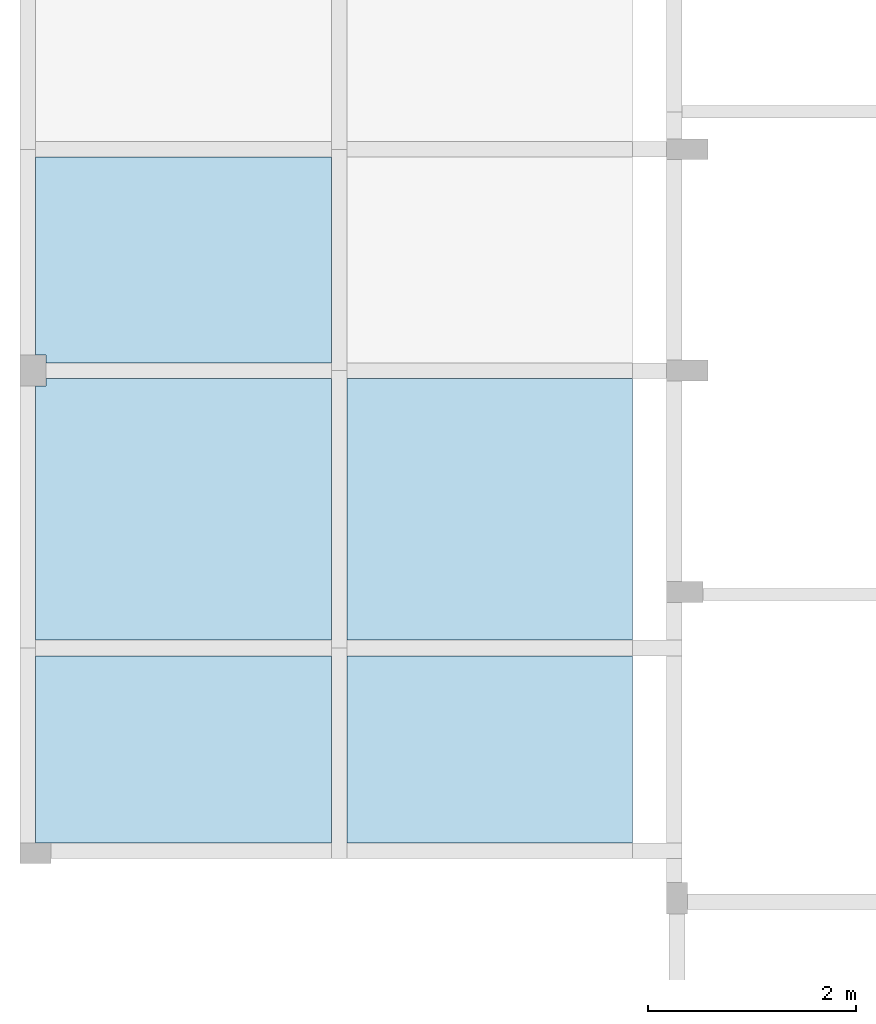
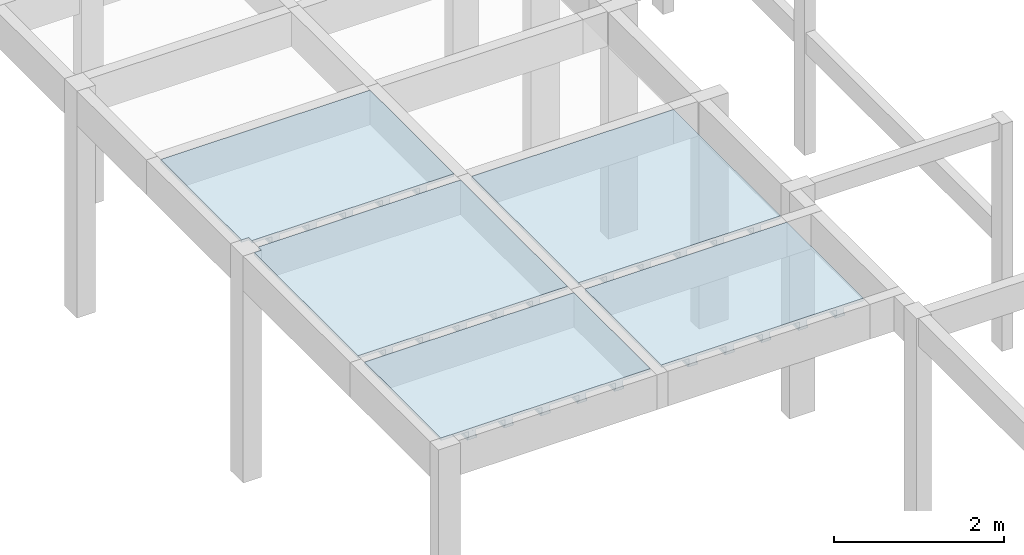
# One storey, part 3 of 6: 5 slabs.
"""IFC4 building model written with IfcOpenShell, lengths in centimetres."""

from ifc_helpers import new_model, si_unit, derived_unit, frame, origin_with_axes, place, context, project, spatial, polyline, outline, extrude, faceted_brep, material, element, save


model = new_model("IFC4")

# Units and contexts
model_context = context("Model", 3, precision=1e-05, world=origin_with_axes(), identifier="Body")
ifc_project = project(units=[si_unit("LENGTHUNIT", "METRE", prefix="CENTI"), si_unit("VOLUMEUNIT", "CUBIC_METRE"), si_unit("AREAUNIT", "SQUARE_METRE"), si_unit("POWERUNIT", "WATT"), si_unit("LUMINOUSFLUXUNIT", "LUMEN"), si_unit("ELECTRICCURRENTUNIT", "AMPERE"), si_unit("PRESSUREUNIT", "PASCAL", prefix="KILO"), si_unit("MASSUNIT", "GRAM", prefix="KILO"), si_unit("PLANEANGLEUNIT", "RADIAN"), derived_unit("VOLUMETRICFLOWRATEUNIT", [(si_unit("LENGTHUNIT", "METRE"), 3), (si_unit("TIMEUNIT", "SECOND"), -1)])], contexts=[model_context])

# Site, building, storey
site_placement = place(None, origin_with_axes())
site = spatial("IfcSite", under=ifc_project, at=site_placement)
building_placement = place(site_placement, frame((0.0, 0.0, -295.0)))
building = spatial("IfcBuilding", under=site, at=building_placement)
placement_1 = place(building_placement, origin_with_axes())
placement_2 = place(placement_1, frame((0.0, 0.0, 101.0), z_axis=(0.0, 0.0, 1.0), x_axis=(1.0, 0.0, 0.0)))
placement_3 = place(placement_2, frame((0.0, 0.0, 204.0), z_axis=(0.0, 0.0, 1.0), x_axis=(1.0, 0.0, 0.0)))
placement_4 = place(placement_3, frame((0.0, 0.0, 292.0), z_axis=(0.0, 0.0, 1.0), x_axis=(1.0, 0.0, 0.0)))
placement_5 = place(placement_4, frame((0.0, 0.0, 302.0), z_axis=(0.0, 0.0, 1.0), x_axis=(1.0, 0.0, 0.0)))
storey_placement = place(placement_5, frame((0.0, 0.0, 326.0), z_axis=(0.0, 0.0, 1.0), x_axis=(1.0, 0.0, 0.0)))
storey = spatial("IfcBuildingStorey", under=building, at=storey_placement, Name="COB CX DAGUA", CompositionType="ELEMENT", Elevation=930.0)

# Slabs
ifc_material = material(Name="Concreto")
slab_1_placement = place(storey_placement, frame((709.0655, -6219.16, 0.0), z_axis=(0.0, 0.0, 1.0), x_axis=(1.0, 0.0, 0.0)))
element("IfcSlab", 1, at=slab_1_placement, inside=storey, material=ifc_material, Name="L311", PredefinedType="FLOOR", context=model_context, shape_type="SolidModel", body=[
    extrude(outline(polyline([(142.335, 98.96), (-142.334, 98.96), (-142.334, -91.459), (-132.334, -91.459), (-132.334, -98.96), (142.334, -98.96), (142.335, 98.96), (142.335, 98.96)])), frame((-0.0005, 0.0, -4.0), z_axis=(0.0, 0.0, 1.0), x_axis=(1.0, 0.0, 0.0)), (0.0, 0.0, 1.0), 4.0),
    faceted_brep([(-5.0005, -98.96, -16.0), (-5.0005, 98.96, -16.0), (4.9995, 98.96, -16.0), (4.9995, -98.96, -16.0), (4.9995, -98.96, -4.0), (4.9995, 98.96, -4.0), (-5.0005, 98.96, -4.0), (-5.0005, -98.96, -4.0)], [[[0, 1, 2, 3]], [[4, 5, 6, 7]], [[4, 3, 5]], [[3, 2, 5]], [[5, 2, 6]], [[2, 1, 6]], [[6, 1, 7]], [[1, 0, 7]], [[7, 0, 4]], [[0, 3, 4]]]),
    faceted_brep([(-6.5005, -98.96, -16.0), (-6.5005, 98.96, -16.0), (-5.0005, 98.96, -16.0), (-5.0005, -98.96, -16.0), (-5.0005, -98.96, -13.0), (-5.0005, 98.96, -13.0), (-6.5005, 98.96, -13.0), (-6.5005, -98.96, -13.0)], [[[0, 1, 2, 3]], [[4, 5, 6, 7]], [[4, 3, 5]], [[3, 2, 5]], [[5, 2, 6]], [[2, 1, 6]], [[6, 1, 7]], [[1, 0, 7]], [[7, 0, 4]], [[0, 3, 4]]]),
    faceted_brep([(4.9995, -98.96, -16.0), (4.9995, 98.96, -16.0), (6.4995, 98.96, -16.0), (6.4995, -98.96, -16.0), (6.4995, -98.96, -13.0), (6.4995, 98.96, -13.0), (4.9995, 98.96, -13.0), (4.9995, -98.96, -13.0)], [[[0, 1, 2, 3]], [[4, 5, 6, 7]], [[4, 3, 5]], [[3, 2, 5]], [[5, 2, 6]], [[2, 1, 6]], [[6, 1, 7]], [[1, 0, 7]], [[7, 0, 4]], [[0, 3, 4]]]),
    faceted_brep([(-55.0005, -98.96, -16.0), (-55.0005, 98.96, -16.0), (-45.0005, 98.96, -16.0), (-45.0005, -98.96, -16.0), (-45.0005, -98.96, -4.0), (-45.0005, 98.96, -4.0), (-55.0005, 98.96, -4.0), (-55.0005, -98.96, -4.0)], [[[0, 1, 2, 3]], [[4, 5, 6, 7]], [[4, 3, 5]], [[3, 2, 5]], [[5, 2, 6]], [[2, 1, 6]], [[6, 1, 7]], [[1, 0, 7]], [[7, 0, 4]], [[0, 3, 4]]]),
    faceted_brep([(-56.5005, -98.96, -16.0), (-56.5005, 98.96, -16.0), (-55.0005, 98.96, -16.0), (-55.0005, -98.96, -16.0), (-55.0005, -98.96, -13.0), (-55.0005, 98.96, -13.0), (-56.5005, 98.96, -13.0), (-56.5005, -98.96, -13.0)], [[[0, 1, 2, 3]], [[4, 5, 6, 7]], [[4, 3, 5]], [[3, 2, 5]], [[5, 2, 6]], [[2, 1, 6]], [[6, 1, 7]], [[1, 0, 7]], [[7, 0, 4]], [[0, 3, 4]]]),
    faceted_brep([(-45.0005, -98.96, -16.0), (-45.0005, 98.96, -16.0), (-43.5005, 98.96, -16.0), (-43.5005, -98.96, -16.0), (-43.5005, -98.96, -13.0), (-43.5005, 98.96, -13.0), (-45.0005, 98.96, -13.0), (-45.0005, -98.96, -13.0)], [[[0, 1, 2, 3]], [[4, 5, 6, 7]], [[4, 3, 5]], [[3, 2, 5]], [[5, 2, 6]], [[2, 1, 6]], [[6, 1, 7]], [[1, 0, 7]], [[7, 0, 4]], [[0, 3, 4]]]),
    faceted_brep([(-105.0005, -98.96, -16.0), (-105.0005, 98.96, -16.0), (-95.0005, 98.96, -16.0), (-95.0005, -98.96, -16.0), (-95.0005, -98.96, -4.0), (-95.0005, 98.96, -4.0), (-105.0005, 98.96, -4.0), (-105.0005, -98.96, -4.0)], [[[0, 1, 2, 3]], [[4, 5, 6, 7]], [[4, 3, 5]], [[3, 2, 5]], [[5, 2, 6]], [[2, 1, 6]], [[6, 1, 7]], [[1, 0, 7]], [[7, 0, 4]], [[0, 3, 4]]]),
    faceted_brep([(-106.5005, -98.96, -16.0), (-106.5005, 98.96, -16.0), (-105.0005, 98.96, -16.0), (-105.0005, -98.96, -16.0), (-105.0005, -98.96, -13.0), (-105.0005, 98.96, -13.0), (-106.5005, 98.96, -13.0), (-106.5005, -98.96, -13.0)], [[[0, 1, 2, 3]], [[4, 5, 6, 7]], [[4, 3, 5]], [[3, 2, 5]], [[5, 2, 6]], [[2, 1, 6]], [[6, 1, 7]], [[1, 0, 7]], [[7, 0, 4]], [[0, 3, 4]]]),
    faceted_brep([(-95.0005, -98.96, -16.0), (-95.0005, 98.96, -16.0), (-93.5005, 98.96, -16.0), (-93.5005, -98.96, -16.0), (-93.5005, -98.96, -13.0), (-93.5005, 98.96, -13.0), (-95.0005, 98.96, -13.0), (-95.0005, -98.96, -13.0)], [[[0, 1, 2, 3]], [[4, 5, 6, 7]], [[4, 3, 5]], [[3, 2, 5]], [[5, 2, 6]], [[2, 1, 6]], [[6, 1, 7]], [[1, 0, 7]], [[7, 0, 4]], [[0, 3, 4]]]),
    faceted_brep([(44.9995, -98.96, -16.0), (44.9995, 98.96, -16.0), (54.9995, 98.96, -16.0), (54.9995, -98.96, -16.0), (54.9995, -98.96, -4.0), (54.9995, 98.96, -4.0), (44.9995, 98.96, -4.0), (44.9995, -98.96, -4.0)], [[[0, 1, 2, 3]], [[4, 5, 6, 7]], [[4, 3, 5]], [[3, 2, 5]], [[5, 2, 6]], [[2, 1, 6]], [[6, 1, 7]], [[1, 0, 7]], [[7, 0, 4]], [[0, 3, 4]]]),
    faceted_brep([(43.4995, -98.96, -16.0), (43.4995, 98.96, -16.0), (44.9995, 98.96, -16.0), (44.9995, -98.96, -16.0), (44.9995, -98.96, -13.0), (44.9995, 98.96, -13.0), (43.4995, 98.96, -13.0), (43.4995, -98.96, -13.0)], [[[0, 1, 2, 3]], [[4, 5, 6, 7]], [[4, 3, 5]], [[3, 2, 5]], [[5, 2, 6]], [[2, 1, 6]], [[6, 1, 7]], [[1, 0, 7]], [[7, 0, 4]], [[0, 3, 4]]]),
    faceted_brep([(54.9995, -98.96, -16.0), (54.9995, 98.96, -16.0), (56.4995, 98.96, -16.0), (56.4995, -98.96, -16.0), (56.4995, -98.96, -13.0), (56.4995, 98.96, -13.0), (54.9995, 98.96, -13.0), (54.9995, -98.96, -13.0)], [[[0, 1, 2, 3]], [[4, 5, 6, 7]], [[4, 3, 5]], [[3, 2, 5]], [[5, 2, 6]], [[2, 1, 6]], [[6, 1, 7]], [[1, 0, 7]], [[7, 0, 4]], [[0, 3, 4]]]),
    faceted_brep([(94.9995, -98.96, -16.0), (94.9995, 98.96, -16.0), (104.9995, 98.96, -16.0), (104.9995, -98.96, -16.0), (104.9995, -98.96, -4.0), (104.9995, 98.96, -4.0), (94.9995, 98.96, -4.0), (94.9995, -98.96, -4.0)], [[[0, 1, 2, 3]], [[4, 5, 6, 7]], [[4, 3, 5]], [[3, 2, 5]], [[5, 2, 6]], [[2, 1, 6]], [[6, 1, 7]], [[1, 0, 7]], [[7, 0, 4]], [[0, 3, 4]]]),
    faceted_brep([(93.4995, -98.96, -16.0), (93.4995, 98.96, -16.0), (94.9995, 98.96, -16.0), (94.9995, -98.96, -16.0), (94.9995, -98.96, -13.0), (94.9995, 98.96, -13.0), (93.4995, 98.96, -13.0), (93.4995, -98.96, -13.0)], [[[0, 1, 2, 3]], [[4, 5, 6, 7]], [[4, 3, 5]], [[3, 2, 5]], [[5, 2, 6]], [[2, 1, 6]], [[6, 1, 7]], [[1, 0, 7]], [[7, 0, 4]], [[0, 3, 4]]]),
    faceted_brep([(104.9995, -98.96, -16.0), (104.9995, 98.96, -16.0), (106.4995, 98.96, -16.0), (106.4995, -98.96, -16.0), (106.4995, -98.96, -13.0), (106.4995, 98.96, -13.0), (104.9995, 98.96, -13.0), (104.9995, -98.96, -13.0)], [[[0, 1, 2, 3]], [[4, 5, 6, 7]], [[4, 3, 5]], [[3, 2, 5]], [[5, 2, 6]], [[2, 1, 6]], [[6, 1, 7]], [[1, 0, 7]], [[7, 0, 4]], [[0, 3, 4]]]),
])
slab_2_placement = place(storey_placement, frame((709.065, -6459.08, 0.0), z_axis=(0.0, 0.0, 1.0), x_axis=(1.0, 0.0, 0.0)))
element("IfcSlab", 2, at=slab_2_placement, inside=storey, material=ifc_material, Name="L313", PredefinedType="FLOOR", context=model_context, shape_type="SolidModel", body=[
    extrude(outline(polyline([(142.335, 125.959), (-132.334, 125.96), (-132.334, 118.46), (-142.334, 118.46), (-142.335, -125.959), (142.335, -125.96), (142.335, 125.959), (142.335, 125.959)])), frame((0.0, 0.0, -4.0), z_axis=(0.0, 0.0, 1.0), x_axis=(1.0, 0.0, 0.0)), (0.0, 0.0, 1.0), 4.0),
    faceted_brep([(-5.0, -125.9595, -16.0), (-5.0, 125.9595, -16.0), (5.0, 125.9595, -16.0), (5.0, -125.9595, -16.0), (5.0, -125.9595, -4.0), (5.0, 125.9595, -4.0), (-5.0, 125.9595, -4.0), (-5.0, -125.9595, -4.0)], [[[0, 1, 2, 3]], [[4, 5, 6, 7]], [[4, 3, 5]], [[3, 2, 5]], [[5, 2, 6]], [[2, 1, 6]], [[6, 1, 7]], [[1, 0, 7]], [[7, 0, 4]], [[0, 3, 4]]]),
    faceted_brep([(-6.5, -125.9595, -16.0), (-6.5, 125.9595, -16.0), (-5.0, 125.9595, -16.0), (-5.0, -125.9595, -16.0), (-5.0, -125.9595, -13.0), (-5.0, 125.9595, -13.0), (-6.5, 125.9595, -13.0), (-6.5, -125.9595, -13.0)], [[[0, 1, 2, 3]], [[4, 5, 6, 7]], [[4, 3, 5]], [[3, 2, 5]], [[5, 2, 6]], [[2, 1, 6]], [[6, 1, 7]], [[1, 0, 7]], [[7, 0, 4]], [[0, 3, 4]]]),
    faceted_brep([(5.0, -125.9595, -16.0), (5.0, 125.9595, -16.0), (6.5, 125.9595, -16.0), (6.5, -125.9595, -16.0), (6.5, -125.9595, -13.0), (6.5, 125.9595, -13.0), (5.0, 125.9595, -13.0), (5.0, -125.9595, -13.0)], [[[0, 1, 2, 3]], [[4, 5, 6, 7]], [[4, 3, 5]], [[3, 2, 5]], [[5, 2, 6]], [[2, 1, 6]], [[6, 1, 7]], [[1, 0, 7]], [[7, 0, 4]], [[0, 3, 4]]]),
    faceted_brep([(-55.0, -125.9595, -16.0), (-55.0, 125.9595, -16.0), (-45.0, 125.9595, -16.0), (-45.0, -125.9595, -16.0), (-45.0, -125.9595, -4.0), (-45.0, 125.9595, -4.0), (-55.0, 125.9595, -4.0), (-55.0, -125.9595, -4.0)], [[[0, 1, 2, 3]], [[4, 5, 6, 7]], [[4, 3, 5]], [[3, 2, 5]], [[5, 2, 6]], [[2, 1, 6]], [[6, 1, 7]], [[1, 0, 7]], [[7, 0, 4]], [[0, 3, 4]]]),
    faceted_brep([(-56.5, -125.9595, -16.0), (-56.5, 125.9595, -16.0), (-55.0, 125.9595, -16.0), (-55.0, -125.9595, -16.0), (-55.0, -125.9595, -13.0), (-55.0, 125.9595, -13.0), (-56.5, 125.9595, -13.0), (-56.5, -125.9595, -13.0)], [[[0, 1, 2, 3]], [[4, 5, 6, 7]], [[4, 3, 5]], [[3, 2, 5]], [[5, 2, 6]], [[2, 1, 6]], [[6, 1, 7]], [[1, 0, 7]], [[7, 0, 4]], [[0, 3, 4]]]),
    faceted_brep([(-45.0, -125.9595, -16.0), (-45.0, 125.9595, -16.0), (-43.5, 125.9595, -16.0), (-43.5, -125.9595, -16.0), (-43.5, -125.9595, -13.0), (-43.5, 125.9595, -13.0), (-45.0, 125.9595, -13.0), (-45.0, -125.9595, -13.0)], [[[0, 1, 2, 3]], [[4, 5, 6, 7]], [[4, 3, 5]], [[3, 2, 5]], [[5, 2, 6]], [[2, 1, 6]], [[6, 1, 7]], [[1, 0, 7]], [[7, 0, 4]], [[0, 3, 4]]]),
    faceted_brep([(-105.0, -125.9595, -16.0), (-105.0, 125.9595, -16.0), (-95.0, 125.9595, -16.0), (-95.0, -125.9595, -16.0), (-95.0, -125.9595, -4.0), (-95.0, 125.9595, -4.0), (-105.0, 125.9595, -4.0), (-105.0, -125.9595, -4.0)], [[[0, 1, 2, 3]], [[4, 5, 6, 7]], [[4, 3, 5]], [[3, 2, 5]], [[5, 2, 6]], [[2, 1, 6]], [[6, 1, 7]], [[1, 0, 7]], [[7, 0, 4]], [[0, 3, 4]]]),
    faceted_brep([(-106.5, -125.9595, -16.0), (-106.5, 125.9595, -16.0), (-105.0, 125.9595, -16.0), (-105.0, -125.9595, -16.0), (-105.0, -125.9595, -13.0), (-105.0, 125.9595, -13.0), (-106.5, 125.9595, -13.0), (-106.5, -125.9595, -13.0)], [[[0, 1, 2, 3]], [[4, 5, 6, 7]], [[4, 3, 5]], [[3, 2, 5]], [[5, 2, 6]], [[2, 1, 6]], [[6, 1, 7]], [[1, 0, 7]], [[7, 0, 4]], [[0, 3, 4]]]),
    faceted_brep([(-95.0, -125.9595, -16.0), (-95.0, 125.9595, -16.0), (-93.5, 125.9595, -16.0), (-93.5, -125.9595, -16.0), (-93.5, -125.9595, -13.0), (-93.5, 125.9595, -13.0), (-95.0, 125.9595, -13.0), (-95.0, -125.9595, -13.0)], [[[0, 1, 2, 3]], [[4, 5, 6, 7]], [[4, 3, 5]], [[3, 2, 5]], [[5, 2, 6]], [[2, 1, 6]], [[6, 1, 7]], [[1, 0, 7]], [[7, 0, 4]], [[0, 3, 4]]]),
    faceted_brep([(45.0, -125.9595, -16.0), (45.0, 125.9595, -16.0), (55.0, 125.9595, -16.0), (55.0, -125.9595, -16.0), (55.0, -125.9595, -4.0), (55.0, 125.9595, -4.0), (45.0, 125.9595, -4.0), (45.0, -125.9595, -4.0)], [[[0, 1, 2, 3]], [[4, 5, 6, 7]], [[4, 3, 5]], [[3, 2, 5]], [[5, 2, 6]], [[2, 1, 6]], [[6, 1, 7]], [[1, 0, 7]], [[7, 0, 4]], [[0, 3, 4]]]),
    faceted_brep([(43.5, -125.9595, -16.0), (43.5, 125.9595, -16.0), (45.0, 125.9595, -16.0), (45.0, -125.9595, -16.0), (45.0, -125.9595, -13.0), (45.0, 125.9595, -13.0), (43.5, 125.9595, -13.0), (43.5, -125.9595, -13.0)], [[[0, 1, 2, 3]], [[4, 5, 6, 7]], [[4, 3, 5]], [[3, 2, 5]], [[5, 2, 6]], [[2, 1, 6]], [[6, 1, 7]], [[1, 0, 7]], [[7, 0, 4]], [[0, 3, 4]]]),
    faceted_brep([(55.0, -125.9595, -16.0), (55.0, 125.9595, -16.0), (56.5, 125.9595, -16.0), (56.5, -125.9595, -16.0), (56.5, -125.9595, -13.0), (56.5, 125.9595, -13.0), (55.0, 125.9595, -13.0), (55.0, -125.9595, -13.0)], [[[0, 1, 2, 3]], [[4, 5, 6, 7]], [[4, 3, 5]], [[3, 2, 5]], [[5, 2, 6]], [[2, 1, 6]], [[6, 1, 7]], [[1, 0, 7]], [[7, 0, 4]], [[0, 3, 4]]]),
    faceted_brep([(95.0, -125.9595, -16.0), (95.0, 125.9595, -16.0), (105.0, 125.9595, -16.0), (105.0, -125.9595, -16.0), (105.0, -125.9595, -4.0), (105.0, 125.9595, -4.0), (95.0, 125.9595, -4.0), (95.0, -125.9595, -4.0)], [[[0, 1, 2, 3]], [[4, 5, 6, 7]], [[4, 3, 5]], [[3, 2, 5]], [[5, 2, 6]], [[2, 1, 6]], [[6, 1, 7]], [[1, 0, 7]], [[7, 0, 4]], [[0, 3, 4]]]),
    faceted_brep([(93.5, -125.9595, -16.0), (93.5, 125.9595, -16.0), (95.0, 125.9595, -16.0), (95.0, -125.9595, -16.0), (95.0, -125.9595, -13.0), (95.0, 125.9595, -13.0), (93.5, 125.9595, -13.0), (93.5, -125.9595, -13.0)], [[[0, 1, 2, 3]], [[4, 5, 6, 7]], [[4, 3, 5]], [[3, 2, 5]], [[5, 2, 6]], [[2, 1, 6]], [[6, 1, 7]], [[1, 0, 7]], [[7, 0, 4]], [[0, 3, 4]]]),
    faceted_brep([(105.0, -125.9595, -16.0), (105.0, 125.9595, -16.0), (106.5, 125.9595, -16.0), (106.5, -125.9595, -16.0), (106.5, -125.9595, -13.0), (106.5, 125.9595, -13.0), (105.0, 125.9595, -13.0), (105.0, -125.9595, -13.0)], [[[0, 1, 2, 3]], [[4, 5, 6, 7]], [[4, 3, 5]], [[3, 2, 5]], [[5, 2, 6]], [[2, 1, 6]], [[6, 1, 7]], [[1, 0, 7]], [[7, 0, 4]], [[0, 3, 4]]]),
])
slab_3_placement = place(storey_placement, frame((1003.65, -6459.08, 0.0), z_axis=(0.0, 0.0, 1.0), x_axis=(1.0, 0.0, 0.0)))
element("IfcSlab", 3, at=slab_3_placement, inside=storey, material=ifc_material, Name="L314", PredefinedType="FLOOR", context=model_context, shape_type="SolidModel", body=[
    extrude(outline(polyline([(137.25, -125.959), (137.25, 125.96), (-137.25, 125.96), (-137.25, -125.96), (137.25, -125.959), (137.25, -125.959)])), frame((0.0, 0.0, -4.0), z_axis=(0.0, 0.0, 1.0), x_axis=(1.0, 0.0, 0.0)), (0.0, 0.0, 1.0), 4.0),
    faceted_brep([(-49.585, -125.9595, -16.0), (-49.585, 125.96, -16.0), (-39.585, 125.96, -16.0), (-39.585, -125.9595, -16.0), (-39.585, -125.9595, -4.0), (-39.585, 125.96, -4.0), (-49.585, 125.96, -4.0), (-49.585, -125.9595, -4.0)], [[[0, 1, 2, 3]], [[4, 5, 6, 7]], [[4, 3, 5]], [[3, 2, 5]], [[5, 2, 6]], [[2, 1, 6]], [[6, 1, 7]], [[1, 0, 7]], [[7, 0, 4]], [[0, 3, 4]]]),
    faceted_brep([(-51.085, -125.9595, -16.0), (-51.085, 125.96, -16.0), (-49.585, 125.96, -16.0), (-49.585, -125.9595, -16.0), (-49.585, -125.9595, -13.0), (-49.585, 125.96, -13.0), (-51.085, 125.96, -13.0), (-51.085, -125.9595, -13.0)], [[[0, 1, 2, 3]], [[4, 5, 6, 7]], [[4, 3, 5]], [[3, 2, 5]], [[5, 2, 6]], [[2, 1, 6]], [[6, 1, 7]], [[1, 0, 7]], [[7, 0, 4]], [[0, 3, 4]]]),
    faceted_brep([(-39.585, -125.9595, -16.0), (-39.585, 125.96, -16.0), (-38.085, 125.96, -16.0), (-38.085, -125.9595, -16.0), (-38.085, -125.9595, -13.0), (-38.085, 125.96, -13.0), (-39.585, 125.96, -13.0), (-39.585, -125.9595, -13.0)], [[[0, 1, 2, 3]], [[4, 5, 6, 7]], [[4, 3, 5]], [[3, 2, 5]], [[5, 2, 6]], [[2, 1, 6]], [[6, 1, 7]], [[1, 0, 7]], [[7, 0, 4]], [[0, 3, 4]]]),
    faceted_brep([(-99.585, -125.9595, -16.0), (-99.585, 125.96, -16.0), (-89.585, 125.96, -16.0), (-89.585, -125.9595, -16.0), (-89.585, -125.9595, -4.0), (-89.585, 125.96, -4.0), (-99.585, 125.96, -4.0), (-99.585, -125.9595, -4.0)], [[[0, 1, 2, 3]], [[4, 5, 6, 7]], [[4, 3, 5]], [[3, 2, 5]], [[5, 2, 6]], [[2, 1, 6]], [[6, 1, 7]], [[1, 0, 7]], [[7, 0, 4]], [[0, 3, 4]]]),
    faceted_brep([(-101.085, -125.9595, -16.0), (-101.085, 125.96, -16.0), (-99.585, 125.96, -16.0), (-99.585, -125.9595, -16.0), (-99.585, -125.9595, -13.0), (-99.585, 125.96, -13.0), (-101.085, 125.96, -13.0), (-101.085, -125.9595, -13.0)], [[[0, 1, 2, 3]], [[4, 5, 6, 7]], [[4, 3, 5]], [[3, 2, 5]], [[5, 2, 6]], [[2, 1, 6]], [[6, 1, 7]], [[1, 0, 7]], [[7, 0, 4]], [[0, 3, 4]]]),
    faceted_brep([(-89.585, -125.9595, -16.0), (-89.585, 125.96, -16.0), (-88.085, 125.96, -16.0), (-88.085, -125.9595, -16.0), (-88.085, -125.9595, -13.0), (-88.085, 125.96, -13.0), (-89.585, 125.96, -13.0), (-89.585, -125.9595, -13.0)], [[[0, 1, 2, 3]], [[4, 5, 6, 7]], [[4, 3, 5]], [[3, 2, 5]], [[5, 2, 6]], [[2, 1, 6]], [[6, 1, 7]], [[1, 0, 7]], [[7, 0, 4]], [[0, 3, 4]]]),
    faceted_brep([(0.415, -125.9595, -16.0), (0.415, 125.96, -16.0), (10.415, 125.96, -16.0), (10.415, -125.9595, -16.0), (10.415, -125.9595, -4.0), (10.415, 125.96, -4.0), (0.415, 125.96, -4.0), (0.415, -125.9595, -4.0)], [[[0, 1, 2, 3]], [[4, 5, 6, 7]], [[4, 3, 5]], [[3, 2, 5]], [[5, 2, 6]], [[2, 1, 6]], [[6, 1, 7]], [[1, 0, 7]], [[7, 0, 4]], [[0, 3, 4]]]),
    faceted_brep([(-1.085, -125.9595, -16.0), (-1.085, 125.96, -16.0), (0.415, 125.96, -16.0), (0.415, -125.9595, -16.0), (0.415, -125.9595, -13.0), (0.415, 125.96, -13.0), (-1.085, 125.96, -13.0), (-1.085, -125.9595, -13.0)], [[[0, 1, 2, 3]], [[4, 5, 6, 7]], [[4, 3, 5]], [[3, 2, 5]], [[5, 2, 6]], [[2, 1, 6]], [[6, 1, 7]], [[1, 0, 7]], [[7, 0, 4]], [[0, 3, 4]]]),
    faceted_brep([(10.415, -125.9595, -16.0), (10.415, 125.96, -16.0), (11.915, 125.96, -16.0), (11.915, -125.9595, -16.0), (11.915, -125.9595, -13.0), (11.915, 125.96, -13.0), (10.415, 125.96, -13.0), (10.415, -125.9595, -13.0)], [[[0, 1, 2, 3]], [[4, 5, 6, 7]], [[4, 3, 5]], [[3, 2, 5]], [[5, 2, 6]], [[2, 1, 6]], [[6, 1, 7]], [[1, 0, 7]], [[7, 0, 4]], [[0, 3, 4]]]),
    faceted_brep([(50.415, -125.9595, -16.0), (50.415, 125.96, -16.0), (60.415, 125.96, -16.0), (60.415, -125.9595, -16.0), (60.415, -125.9595, -4.0), (60.415, 125.96, -4.0), (50.415, 125.96, -4.0), (50.415, -125.9595, -4.0)], [[[0, 1, 2, 3]], [[4, 5, 6, 7]], [[4, 3, 5]], [[3, 2, 5]], [[5, 2, 6]], [[2, 1, 6]], [[6, 1, 7]], [[1, 0, 7]], [[7, 0, 4]], [[0, 3, 4]]]),
    faceted_brep([(48.915, -125.9595, -16.0), (48.915, 125.96, -16.0), (50.415, 125.96, -16.0), (50.415, -125.9595, -16.0), (50.415, -125.9595, -13.0), (50.415, 125.96, -13.0), (48.915, 125.96, -13.0), (48.915, -125.9595, -13.0)], [[[0, 1, 2, 3]], [[4, 5, 6, 7]], [[4, 3, 5]], [[3, 2, 5]], [[5, 2, 6]], [[2, 1, 6]], [[6, 1, 7]], [[1, 0, 7]], [[7, 0, 4]], [[0, 3, 4]]]),
    faceted_brep([(60.415, -125.9595, -16.0), (60.415, 125.96, -16.0), (61.915, 125.96, -16.0), (61.915, -125.9595, -16.0), (61.915, -125.9595, -13.0), (61.915, 125.96, -13.0), (60.415, 125.96, -13.0), (60.415, -125.9595, -13.0)], [[[0, 1, 2, 3]], [[4, 5, 6, 7]], [[4, 3, 5]], [[3, 2, 5]], [[5, 2, 6]], [[2, 1, 6]], [[6, 1, 7]], [[1, 0, 7]], [[7, 0, 4]], [[0, 3, 4]]]),
    faceted_brep([(100.415, -125.9595, -16.0), (100.415, 125.96, -16.0), (110.415, 125.96, -16.0), (110.415, -125.9595, -16.0), (110.415, -125.9595, -4.0), (110.415, 125.96, -4.0), (100.415, 125.96, -4.0), (100.415, -125.9595, -4.0)], [[[0, 1, 2, 3]], [[4, 5, 6, 7]], [[4, 3, 5]], [[3, 2, 5]], [[5, 2, 6]], [[2, 1, 6]], [[6, 1, 7]], [[1, 0, 7]], [[7, 0, 4]], [[0, 3, 4]]]),
    faceted_brep([(98.915, -125.9595, -16.0), (98.915, 125.96, -16.0), (100.415, 125.96, -16.0), (100.415, -125.9595, -16.0), (100.415, -125.9595, -13.0), (100.415, 125.96, -13.0), (98.915, 125.96, -13.0), (98.915, -125.9595, -13.0)], [[[0, 1, 2, 3]], [[4, 5, 6, 7]], [[4, 3, 5]], [[3, 2, 5]], [[5, 2, 6]], [[2, 1, 6]], [[6, 1, 7]], [[1, 0, 7]], [[7, 0, 4]], [[0, 3, 4]]]),
    faceted_brep([(110.415, -125.9595, -16.0), (110.415, 125.96, -16.0), (111.915, 125.96, -16.0), (111.915, -125.9595, -16.0), (111.915, -125.9595, -13.0), (111.915, 125.96, -13.0), (110.415, 125.96, -13.0), (110.415, -125.9595, -13.0)], [[[0, 1, 2, 3]], [[4, 5, 6, 7]], [[4, 3, 5]], [[3, 2, 5]], [[5, 2, 6]], [[2, 1, 6]], [[6, 1, 7]], [[1, 0, 7]], [[7, 0, 4]], [[0, 3, 4]]]),
])
slab_4_placement = place(storey_placement, frame((709.0645, -6690.04, 0.0), z_axis=(0.0, 0.0, 1.0), x_axis=(1.0, 0.0, 0.0)))
element("IfcSlab", 4, at=slab_4_placement, inside=storey, material=ifc_material, Name="L315", PredefinedType="FLOOR", context=model_context, shape_type="SolidModel", body=[
    extrude(outline(polyline([(142.334, 90.0), (-142.335, 90.0), (-142.334, -89.999), (142.334, -90.0), (142.334, 90.0), (142.334, 90.0)])), frame((0.0005, 0.0, -4.0), z_axis=(0.0, 0.0, 1.0), x_axis=(1.0, 0.0, 0.0)), (0.0, 0.0, 1.0), 4.0),
    faceted_brep([(-4.9995, -89.9995, -16.0), (-4.9995, 90.0, -16.0), (5.0005, 90.0, -16.0), (5.0005, -89.9995, -16.0), (5.0005, -89.9995, -4.0), (5.0005, 90.0, -4.0), (-4.9995, 90.0, -4.0), (-4.9995, -89.9995, -4.0)], [[[0, 1, 2, 3]], [[4, 5, 6, 7]], [[4, 3, 5]], [[3, 2, 5]], [[5, 2, 6]], [[2, 1, 6]], [[6, 1, 7]], [[1, 0, 7]], [[7, 0, 4]], [[0, 3, 4]]]),
    faceted_brep([(-6.4995, -89.9995, -16.0), (-6.4995, 90.0, -16.0), (-4.9995, 90.0, -16.0), (-4.9995, -89.9995, -16.0), (-4.9995, -89.9995, -13.0), (-4.9995, 90.0, -13.0), (-6.4995, 90.0, -13.0), (-6.4995, -89.9995, -13.0)], [[[0, 1, 2, 3]], [[4, 5, 6, 7]], [[4, 3, 5]], [[3, 2, 5]], [[5, 2, 6]], [[2, 1, 6]], [[6, 1, 7]], [[1, 0, 7]], [[7, 0, 4]], [[0, 3, 4]]]),
    faceted_brep([(5.0005, -89.9995, -16.0), (5.0005, 90.0, -16.0), (6.5005, 90.0, -16.0), (6.5005, -89.9995, -16.0), (6.5005, -89.9995, -13.0), (6.5005, 90.0, -13.0), (5.0005, 90.0, -13.0), (5.0005, -89.9995, -13.0)], [[[0, 1, 2, 3]], [[4, 5, 6, 7]], [[4, 3, 5]], [[3, 2, 5]], [[5, 2, 6]], [[2, 1, 6]], [[6, 1, 7]], [[1, 0, 7]], [[7, 0, 4]], [[0, 3, 4]]]),
    faceted_brep([(-54.9995, -89.9995, -16.0), (-54.9995, 90.0, -16.0), (-44.9995, 90.0, -16.0), (-44.9995, -89.9995, -16.0), (-44.9995, -89.9995, -4.0), (-44.9995, 90.0, -4.0), (-54.9995, 90.0, -4.0), (-54.9995, -89.9995, -4.0)], [[[0, 1, 2, 3]], [[4, 5, 6, 7]], [[4, 3, 5]], [[3, 2, 5]], [[5, 2, 6]], [[2, 1, 6]], [[6, 1, 7]], [[1, 0, 7]], [[7, 0, 4]], [[0, 3, 4]]]),
    faceted_brep([(-56.4995, -89.9995, -16.0), (-56.4995, 90.0, -16.0), (-54.9995, 90.0, -16.0), (-54.9995, -89.9995, -16.0), (-54.9995, -89.9995, -13.0), (-54.9995, 90.0, -13.0), (-56.4995, 90.0, -13.0), (-56.4995, -89.9995, -13.0)], [[[0, 1, 2, 3]], [[4, 5, 6, 7]], [[4, 3, 5]], [[3, 2, 5]], [[5, 2, 6]], [[2, 1, 6]], [[6, 1, 7]], [[1, 0, 7]], [[7, 0, 4]], [[0, 3, 4]]]),
    faceted_brep([(-44.9995, -89.9995, -16.0), (-44.9995, 90.0, -16.0), (-43.4995, 90.0, -16.0), (-43.4995, -89.9995, -16.0), (-43.4995, -89.9995, -13.0), (-43.4995, 90.0, -13.0), (-44.9995, 90.0, -13.0), (-44.9995, -89.9995, -13.0)], [[[0, 1, 2, 3]], [[4, 5, 6, 7]], [[4, 3, 5]], [[3, 2, 5]], [[5, 2, 6]], [[2, 1, 6]], [[6, 1, 7]], [[1, 0, 7]], [[7, 0, 4]], [[0, 3, 4]]]),
    faceted_brep([(-104.9995, -89.9995, -16.0), (-104.9995, 90.0, -16.0), (-94.9995, 90.0, -16.0), (-94.9995, -89.9995, -16.0), (-94.9995, -89.9995, -4.0), (-94.9995, 90.0, -4.0), (-104.9995, 90.0, -4.0), (-104.9995, -89.9995, -4.0)], [[[0, 1, 2, 3]], [[4, 5, 6, 7]], [[4, 3, 5]], [[3, 2, 5]], [[5, 2, 6]], [[2, 1, 6]], [[6, 1, 7]], [[1, 0, 7]], [[7, 0, 4]], [[0, 3, 4]]]),
    faceted_brep([(-106.4995, -89.9995, -16.0), (-106.4995, 90.0, -16.0), (-104.9995, 90.0, -16.0), (-104.9995, -89.9995, -16.0), (-104.9995, -89.9995, -13.0), (-104.9995, 90.0, -13.0), (-106.4995, 90.0, -13.0), (-106.4995, -89.9995, -13.0)], [[[0, 1, 2, 3]], [[4, 5, 6, 7]], [[4, 3, 5]], [[3, 2, 5]], [[5, 2, 6]], [[2, 1, 6]], [[6, 1, 7]], [[1, 0, 7]], [[7, 0, 4]], [[0, 3, 4]]]),
    faceted_brep([(-94.9995, -89.9995, -16.0), (-94.9995, 90.0, -16.0), (-93.4995, 90.0, -16.0), (-93.4995, -89.9995, -16.0), (-93.4995, -89.9995, -13.0), (-93.4995, 90.0, -13.0), (-94.9995, 90.0, -13.0), (-94.9995, -89.9995, -13.0)], [[[0, 1, 2, 3]], [[4, 5, 6, 7]], [[4, 3, 5]], [[3, 2, 5]], [[5, 2, 6]], [[2, 1, 6]], [[6, 1, 7]], [[1, 0, 7]], [[7, 0, 4]], [[0, 3, 4]]]),
    faceted_brep([(45.0005, -89.9995, -16.0), (45.0005, 90.0, -16.0), (55.0005, 90.0, -16.0), (55.0005, -89.9995, -16.0), (55.0005, -89.9995, -4.0), (55.0005, 90.0, -4.0), (45.0005, 90.0, -4.0), (45.0005, -89.9995, -4.0)], [[[0, 1, 2, 3]], [[4, 5, 6, 7]], [[4, 3, 5]], [[3, 2, 5]], [[5, 2, 6]], [[2, 1, 6]], [[6, 1, 7]], [[1, 0, 7]], [[7, 0, 4]], [[0, 3, 4]]]),
    faceted_brep([(43.5005, -89.9995, -16.0), (43.5005, 90.0, -16.0), (45.0005, 90.0, -16.0), (45.0005, -89.9995, -16.0), (45.0005, -89.9995, -13.0), (45.0005, 90.0, -13.0), (43.5005, 90.0, -13.0), (43.5005, -89.9995, -13.0)], [[[0, 1, 2, 3]], [[4, 5, 6, 7]], [[4, 3, 5]], [[3, 2, 5]], [[5, 2, 6]], [[2, 1, 6]], [[6, 1, 7]], [[1, 0, 7]], [[7, 0, 4]], [[0, 3, 4]]]),
    faceted_brep([(55.0005, -89.9995, -16.0), (55.0005, 90.0, -16.0), (56.5005, 90.0, -16.0), (56.5005, -89.9995, -16.0), (56.5005, -89.9995, -13.0), (56.5005, 90.0, -13.0), (55.0005, 90.0, -13.0), (55.0005, -89.9995, -13.0)], [[[0, 1, 2, 3]], [[4, 5, 6, 7]], [[4, 3, 5]], [[3, 2, 5]], [[5, 2, 6]], [[2, 1, 6]], [[6, 1, 7]], [[1, 0, 7]], [[7, 0, 4]], [[0, 3, 4]]]),
    faceted_brep([(95.0005, -89.9995, -16.0), (95.0005, 90.0, -16.0), (105.0005, 90.0, -16.0), (105.0005, -89.9995, -16.0), (105.0005, -89.9995, -4.0), (105.0005, 90.0, -4.0), (95.0005, 90.0, -4.0), (95.0005, -89.9995, -4.0)], [[[0, 1, 2, 3]], [[4, 5, 6, 7]], [[4, 3, 5]], [[3, 2, 5]], [[5, 2, 6]], [[2, 1, 6]], [[6, 1, 7]], [[1, 0, 7]], [[7, 0, 4]], [[0, 3, 4]]]),
    faceted_brep([(93.5005, -89.9995, -16.0), (93.5005, 90.0, -16.0), (95.0005, 90.0, -16.0), (95.0005, -89.9995, -16.0), (95.0005, -89.9995, -13.0), (95.0005, 90.0, -13.0), (93.5005, 90.0, -13.0), (93.5005, -89.9995, -13.0)], [[[0, 1, 2, 3]], [[4, 5, 6, 7]], [[4, 3, 5]], [[3, 2, 5]], [[5, 2, 6]], [[2, 1, 6]], [[6, 1, 7]], [[1, 0, 7]], [[7, 0, 4]], [[0, 3, 4]]]),
    faceted_brep([(105.0005, -89.9995, -16.0), (105.0005, 90.0, -16.0), (106.5005, 90.0, -16.0), (106.5005, -89.9995, -16.0), (106.5005, -89.9995, -13.0), (106.5005, 90.0, -13.0), (105.0005, 90.0, -13.0), (105.0005, -89.9995, -13.0)], [[[0, 1, 2, 3]], [[4, 5, 6, 7]], [[4, 3, 5]], [[3, 2, 5]], [[5, 2, 6]], [[2, 1, 6]], [[6, 1, 7]], [[1, 0, 7]], [[7, 0, 4]], [[0, 3, 4]]]),
])
slab_5_placement = place(storey_placement, frame((1003.65, -6690.04, 0.0), z_axis=(0.0, 0.0, 1.0), x_axis=(1.0, 0.0, 0.0)))
element("IfcSlab", 5, at=slab_5_placement, inside=storey, material=ifc_material, Name="L316", PredefinedType="FLOOR", context=model_context, shape_type="SolidModel", body=[
    extrude(outline(polyline([(137.25, -89.999), (137.25, 90.0), (-137.249, 89.999), (-137.25, -90.0), (137.25, -89.999), (137.25, -89.999)])), frame((0.0, 0.0, -4.0), z_axis=(0.0, 0.0, 1.0), x_axis=(1.0, 0.0, 0.0)), (0.0, 0.0, 1.0), 4.0),
    faceted_brep([(-49.585, -89.9995, -16.0), (-49.585, 89.9995, -16.0), (-39.585, 89.9995, -16.0), (-39.585, -89.9995, -16.0), (-39.585, -89.9995, -4.0), (-39.585, 89.9995, -4.0), (-49.585, 89.9995, -4.0), (-49.585, -89.9995, -4.0)], [[[0, 1, 2, 3]], [[4, 5, 6, 7]], [[4, 3, 5]], [[3, 2, 5]], [[5, 2, 6]], [[2, 1, 6]], [[6, 1, 7]], [[1, 0, 7]], [[7, 0, 4]], [[0, 3, 4]]]),
    faceted_brep([(-51.085, -89.9995, -16.0), (-51.085, 89.9995, -16.0), (-49.585, 89.9995, -16.0), (-49.585, -89.9995, -16.0), (-49.585, -89.9995, -13.0), (-49.585, 89.9995, -13.0), (-51.085, 89.9995, -13.0), (-51.085, -89.9995, -13.0)], [[[0, 1, 2, 3]], [[4, 5, 6, 7]], [[4, 3, 5]], [[3, 2, 5]], [[5, 2, 6]], [[2, 1, 6]], [[6, 1, 7]], [[1, 0, 7]], [[7, 0, 4]], [[0, 3, 4]]]),
    faceted_brep([(-39.585, -89.9995, -16.0), (-39.585, 89.9995, -16.0), (-38.085, 89.9995, -16.0), (-38.085, -89.9995, -16.0), (-38.085, -89.9995, -13.0), (-38.085, 89.9995, -13.0), (-39.585, 89.9995, -13.0), (-39.585, -89.9995, -13.0)], [[[0, 1, 2, 3]], [[4, 5, 6, 7]], [[4, 3, 5]], [[3, 2, 5]], [[5, 2, 6]], [[2, 1, 6]], [[6, 1, 7]], [[1, 0, 7]], [[7, 0, 4]], [[0, 3, 4]]]),
    faceted_brep([(-99.585, -89.9995, -16.0), (-99.585, 89.9995, -16.0), (-89.585, 89.9995, -16.0), (-89.585, -89.9995, -16.0), (-89.585, -89.9995, -4.0), (-89.585, 89.9995, -4.0), (-99.585, 89.9995, -4.0), (-99.585, -89.9995, -4.0)], [[[0, 1, 2, 3]], [[4, 5, 6, 7]], [[4, 3, 5]], [[3, 2, 5]], [[5, 2, 6]], [[2, 1, 6]], [[6, 1, 7]], [[1, 0, 7]], [[7, 0, 4]], [[0, 3, 4]]]),
    faceted_brep([(-101.085, -89.9995, -16.0), (-101.085, 89.9995, -16.0), (-99.585, 89.9995, -16.0), (-99.585, -89.9995, -16.0), (-99.585, -89.9995, -13.0), (-99.585, 89.9995, -13.0), (-101.085, 89.9995, -13.0), (-101.085, -89.9995, -13.0)], [[[0, 1, 2, 3]], [[4, 5, 6, 7]], [[4, 3, 5]], [[3, 2, 5]], [[5, 2, 6]], [[2, 1, 6]], [[6, 1, 7]], [[1, 0, 7]], [[7, 0, 4]], [[0, 3, 4]]]),
    faceted_brep([(-89.585, -89.9995, -16.0), (-89.585, 89.9995, -16.0), (-88.085, 89.9995, -16.0), (-88.085, -89.9995, -16.0), (-88.085, -89.9995, -13.0), (-88.085, 89.9995, -13.0), (-89.585, 89.9995, -13.0), (-89.585, -89.9995, -13.0)], [[[0, 1, 2, 3]], [[4, 5, 6, 7]], [[4, 3, 5]], [[3, 2, 5]], [[5, 2, 6]], [[2, 1, 6]], [[6, 1, 7]], [[1, 0, 7]], [[7, 0, 4]], [[0, 3, 4]]]),
    faceted_brep([(0.415, -89.9995, -16.0), (0.415, 89.9995, -16.0), (10.415, 89.9995, -16.0), (10.415, -89.9995, -16.0), (10.415, -89.9995, -4.0), (10.415, 89.9995, -4.0), (0.415, 89.9995, -4.0), (0.415, -89.9995, -4.0)], [[[0, 1, 2, 3]], [[4, 5, 6, 7]], [[4, 3, 5]], [[3, 2, 5]], [[5, 2, 6]], [[2, 1, 6]], [[6, 1, 7]], [[1, 0, 7]], [[7, 0, 4]], [[0, 3, 4]]]),
    faceted_brep([(-1.085, -89.9995, -16.0), (-1.085, 89.9995, -16.0), (0.415, 89.9995, -16.0), (0.415, -89.9995, -16.0), (0.415, -89.9995, -13.0), (0.415, 89.9995, -13.0), (-1.085, 89.9995, -13.0), (-1.085, -89.9995, -13.0)], [[[0, 1, 2, 3]], [[4, 5, 6, 7]], [[4, 3, 5]], [[3, 2, 5]], [[5, 2, 6]], [[2, 1, 6]], [[6, 1, 7]], [[1, 0, 7]], [[7, 0, 4]], [[0, 3, 4]]]),
    faceted_brep([(10.415, -89.9995, -16.0), (10.415, 89.9995, -16.0), (11.915, 89.9995, -16.0), (11.915, -89.9995, -16.0), (11.915, -89.9995, -13.0), (11.915, 89.9995, -13.0), (10.415, 89.9995, -13.0), (10.415, -89.9995, -13.0)], [[[0, 1, 2, 3]], [[4, 5, 6, 7]], [[4, 3, 5]], [[3, 2, 5]], [[5, 2, 6]], [[2, 1, 6]], [[6, 1, 7]], [[1, 0, 7]], [[7, 0, 4]], [[0, 3, 4]]]),
    faceted_brep([(50.415, -89.9995, -16.0), (50.415, 89.9995, -16.0), (60.415, 89.9995, -16.0), (60.415, -89.9995, -16.0), (60.415, -89.9995, -4.0), (60.415, 89.9995, -4.0), (50.415, 89.9995, -4.0), (50.415, -89.9995, -4.0)], [[[0, 1, 2, 3]], [[4, 5, 6, 7]], [[4, 3, 5]], [[3, 2, 5]], [[5, 2, 6]], [[2, 1, 6]], [[6, 1, 7]], [[1, 0, 7]], [[7, 0, 4]], [[0, 3, 4]]]),
    faceted_brep([(48.915, -89.9995, -16.0), (48.915, 89.9995, -16.0), (50.415, 89.9995, -16.0), (50.415, -89.9995, -16.0), (50.415, -89.9995, -13.0), (50.415, 89.9995, -13.0), (48.915, 89.9995, -13.0), (48.915, -89.9995, -13.0)], [[[0, 1, 2, 3]], [[4, 5, 6, 7]], [[4, 3, 5]], [[3, 2, 5]], [[5, 2, 6]], [[2, 1, 6]], [[6, 1, 7]], [[1, 0, 7]], [[7, 0, 4]], [[0, 3, 4]]]),
    faceted_brep([(60.415, -89.9995, -16.0), (60.415, 89.9995, -16.0), (61.915, 89.9995, -16.0), (61.915, -89.9995, -16.0), (61.915, -89.9995, -13.0), (61.915, 89.9995, -13.0), (60.415, 89.9995, -13.0), (60.415, -89.9995, -13.0)], [[[0, 1, 2, 3]], [[4, 5, 6, 7]], [[4, 3, 5]], [[3, 2, 5]], [[5, 2, 6]], [[2, 1, 6]], [[6, 1, 7]], [[1, 0, 7]], [[7, 0, 4]], [[0, 3, 4]]]),
    faceted_brep([(100.415, -89.9995, -16.0), (100.415, 89.9995, -16.0), (110.415, 89.9995, -16.0), (110.415, -89.9995, -16.0), (110.415, -89.9995, -4.0), (110.415, 89.9995, -4.0), (100.415, 89.9995, -4.0), (100.415, -89.9995, -4.0)], [[[0, 1, 2, 3]], [[4, 5, 6, 7]], [[4, 3, 5]], [[3, 2, 5]], [[5, 2, 6]], [[2, 1, 6]], [[6, 1, 7]], [[1, 0, 7]], [[7, 0, 4]], [[0, 3, 4]]]),
    faceted_brep([(98.915, -89.9995, -16.0), (98.915, 89.9995, -16.0), (100.415, 89.9995, -16.0), (100.415, -89.9995, -16.0), (100.415, -89.9995, -13.0), (100.415, 89.9995, -13.0), (98.915, 89.9995, -13.0), (98.915, -89.9995, -13.0)], [[[0, 1, 2, 3]], [[4, 5, 6, 7]], [[4, 3, 5]], [[3, 2, 5]], [[5, 2, 6]], [[2, 1, 6]], [[6, 1, 7]], [[1, 0, 7]], [[7, 0, 4]], [[0, 3, 4]]]),
    faceted_brep([(110.415, -89.9995, -16.0), (110.415, 89.9995, -16.0), (111.915, 89.9995, -16.0), (111.915, -89.9995, -16.0), (111.915, -89.9995, -13.0), (111.915, 89.9995, -13.0), (110.415, 89.9995, -13.0), (110.415, -89.9995, -13.0)], [[[0, 1, 2, 3]], [[4, 5, 6, 7]], [[4, 3, 5]], [[3, 2, 5]], [[5, 2, 6]], [[2, 1, 6]], [[6, 1, 7]], [[1, 0, 7]], [[7, 0, 4]], [[0, 3, 4]]]),
])

save(model, "model.ifc")
